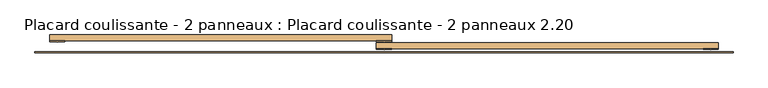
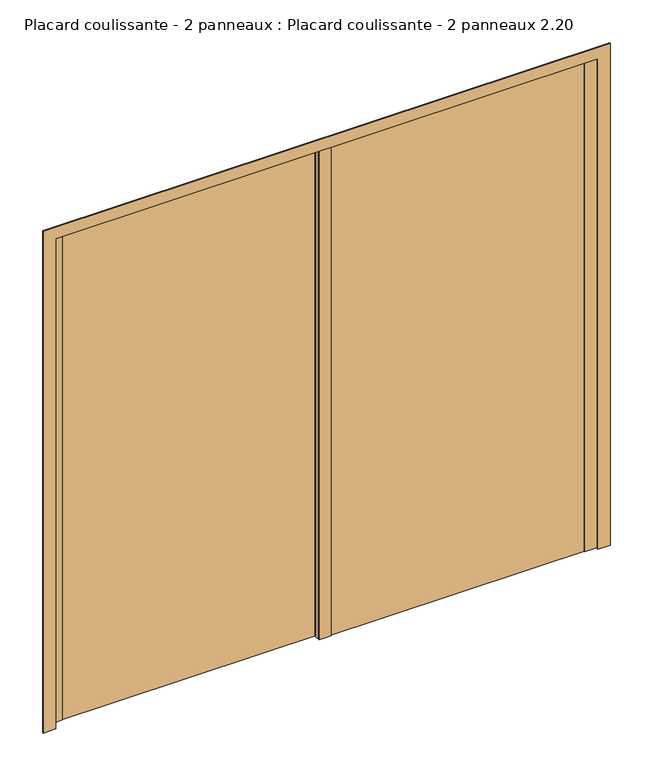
"""IFC4 building model written with IfcOpenShell, lengths in millimetres: door geometry, Placard coulissante - 2 panneaux : Placard coulissante - 2 panneaux 2.20."""

from ifc_helpers import new_model, si_unit, point, frame, frame_2d, origin, origin_with_axes, place, context, project, spatial, polyline, circle_curve, trimmed, segment, composite_curve, outline, extrude, source, transform, mapped, element, save


def placard_coulissante_2_panneaux_placard_coulissante_2_81d75f8f(model_context):
    return source(origin(), model_context, "Body", "SweptSolid", [
        extrude(outline(composite_curve([segment(polyline([(1100.0, -25.0), (1100.0, -27.0)]), True, "CONTINUOUS"), segment(trimmed(circle_curve(frame_2d((1075.0, 186.8603852)), 215.3166607), [point((1100.0, -27.0))], [point((1050.0, -27.0))], False, "CARTESIAN"), True, "CONTINUOUS"), segment(polyline([(1050.0, -27.0), (1050.0, -25.0), (1100.0, -25.0)]), True, "CONTINUOUS")], self_intersect=False)), origin_with_axes(), (0.0, 0.0, 1.0), 2100.0),
        extrude(outline(composite_curve([segment(polyline([(25.0, -25.0), (25.0, -27.0)]), True, "CONTINUOUS"), segment(trimmed(circle_curve(frame_2d((0.0, 186.8603852)), 215.3166607), [point((25.0, -27.0))], [point((-25.0, -27.0))], False, "CARTESIAN"), True, "CONTINUOUS"), segment(polyline([(-25.0, -27.0), (-25.0, -25.0), (25.0, -25.0)]), True, "CONTINUOUS")], self_intersect=False)), origin_with_axes(), (0.0, 0.0, 1.0), 2100.0),
        extrude(outline(composite_curve([segment(polyline([(25.0, 0.0), (25.0, -2.0)]), True, "CONTINUOUS"), segment(trimmed(circle_curve(frame_2d((0.0, 211.8603852)), 215.3166607), [point((25.0, -2.0))], [point((-25.0, -2.0))], False, "CARTESIAN"), True, "CONTINUOUS"), segment(polyline([(-25.0, -2.0), (-25.0, 0.0), (25.0, 0.0)]), True, "CONTINUOUS")], self_intersect=False)), origin_with_axes(), (0.0, 0.0, 1.0), 2100.0),
        extrude(outline(composite_curve([segment(polyline([(-1050.0, 0.0), (-1050.0, -2.0)]), True, "CONTINUOUS"), segment(trimmed(circle_curve(frame_2d((-1075.0, 211.8603852)), 215.3166607), [point((-1050.0, -2.0))], [point((-1100.0, -2.0))], False, "CARTESIAN"), True, "CONTINUOUS"), segment(polyline([(-1100.0, -2.0), (-1100.0, 0.0), (-1050.0, 0.0)]), True, "CONTINUOUS")], self_intersect=False)), origin_with_axes(), (0.0, 0.0, 1.0), 2100.0),
        extrude(outline(polyline([(0.0, -1148.0), (0.0, -1098.0), (2098.0, -1098.0), (2098.0, 1098.0), (0.0, 1098.0), (0.0, 1148.0), (2148.0, 1148.0), (2148.0, -1148.0), (0.0, -1148.0)])), frame((0.0, -38.0, 0.0), z_axis=(0.0, 1.0, 0.0), x_axis=(0.0, 0.0, 1.0)), (0.0, 0.0, 1.0), 3.0),
        extrude(outline(polyline([(1100.0, -25.0), (-25.0, -25.0), (-25.0, -5.0), (1100.0, -5.0), (1100.0, -25.0)])), origin_with_axes(), (0.0, 0.0, 1.0), 2100.0),
        extrude(outline(polyline([(25.0, 0.0), (-1100.0, 0.0), (-1100.0, 20.0), (25.0, 20.0), (25.0, 0.0)])), origin_with_axes(), (0.0, 0.0, 1.0), 2100.0),
    ])


if __name__ == "__main__":
    model = new_model("IFC4")
    model_context = context("Model", 3, world=origin())
    ifc_project = project(units=[si_unit("LENGTHUNIT", "METRE", prefix="MILLI")], contexts=[model_context])
    site = spatial("IfcSite", under=ifc_project)
    building = spatial("IfcBuilding", under=site)
    placement = place(None, origin())
    placard_coulissante_2_panneaux_placard_coulissante_2_shape = placard_coulissante_2_panneaux_placard_coulissante_2_81d75f8f(model_context)
    element("IfcDoor", 1, ObjectType="Placard coulissante - 2 panneaux : Placard coulissante - 2 panneaux 2.20", at=placement, inside=building, context=model_context, shape_type="MappedRepresentation", body=[
        mapped(placard_coulissante_2_panneaux_placard_coulissante_2_shape, transform((0.0, 0.0, 0.0), x_axis=(1.0, 0.0, 0.0), y_axis=(0.0, 1.0, 0.0), z_axis=(0.0, 0.0, 1.0))),
    ])
    save(model, "model.ifc")
